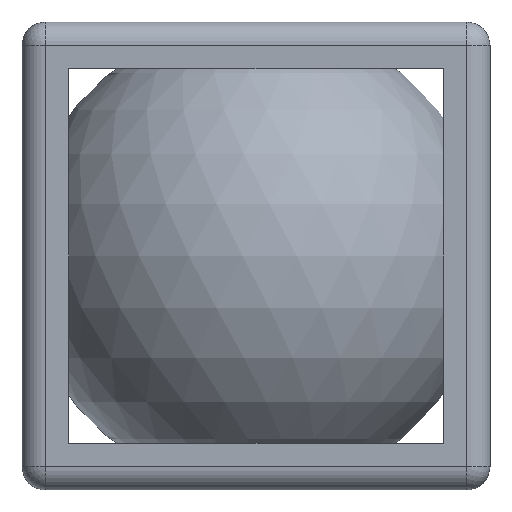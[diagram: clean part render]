
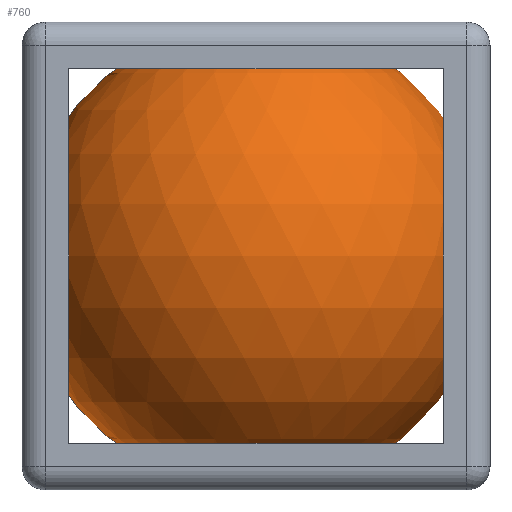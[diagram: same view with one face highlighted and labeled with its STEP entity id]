
A CAD part, front view. The second image highlights one B-rep face of the part: STEP entity #760.
In plain terms, the highlighted spherical face has radius 12.7 mm.
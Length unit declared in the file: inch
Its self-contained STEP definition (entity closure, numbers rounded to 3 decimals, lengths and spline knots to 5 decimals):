
#233=FACE_OUTER_BOUND('',#284,.T.);
#284=EDGE_LOOP('',(#533,#534));
#341=CIRCLE('',#833,0.5);
#366=VERTEX_POINT('',#1148);
#367=VERTEX_POINT('',#1149);
#424=EDGE_CURVE('',#366,#367,#341,.T.);
#533=ORIENTED_EDGE('',*,*,#424,.T.);
#534=ORIENTED_EDGE('',*,*,#424,.F.);
#751=SPHERICAL_SURFACE('',#832,0.5);
#760=ADVANCED_FACE('',(#233),#751,.T.);
#832=AXIS2_PLACEMENT_3D('',#1147,#910,#911);
#833=AXIS2_PLACEMENT_3D('',#1150,#912,#913);
#910=DIRECTION('center_axis',(0.,0.,1.));
#911=DIRECTION('ref_axis',(1.,0.,0.));
#912=DIRECTION('center_axis',(0.,-1.,0.));
#913=DIRECTION('ref_axis',(-1.,0.,0.));
#1147=CARTESIAN_POINT('Origin',(-0.29039,0.5,-0.13017));
#1148=CARTESIAN_POINT('',(-0.29039,0.5,0.36983));
#1149=CARTESIAN_POINT('',(-0.29039,0.5,-0.63017));
#1150=CARTESIAN_POINT('Origin',(-0.29039,0.5,-0.13017));
